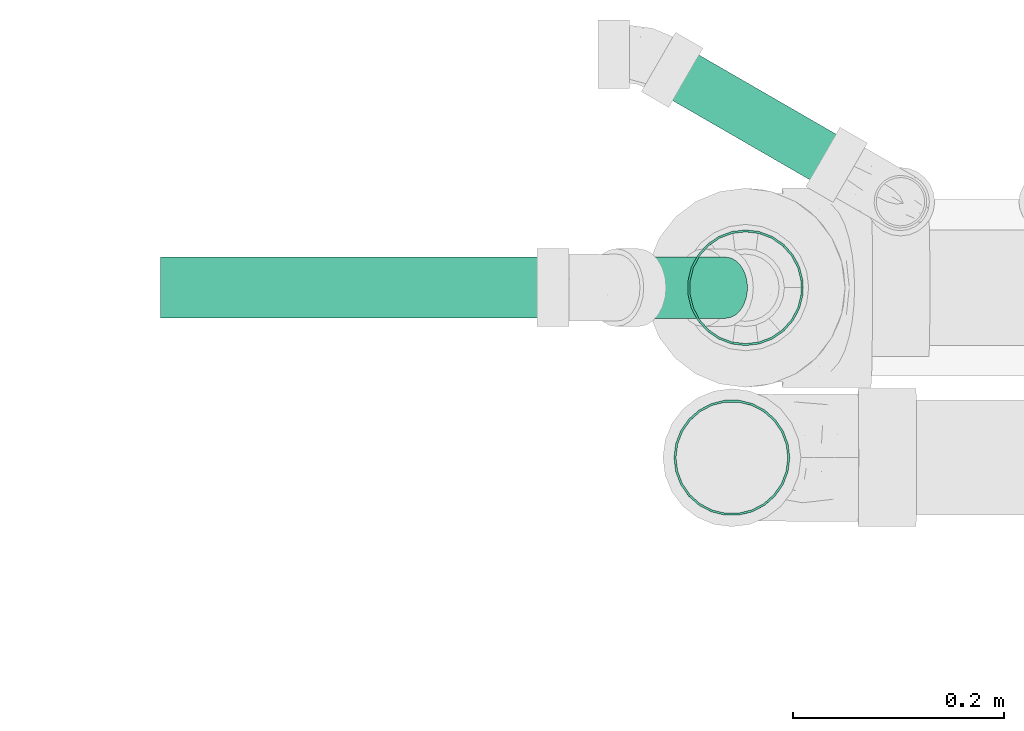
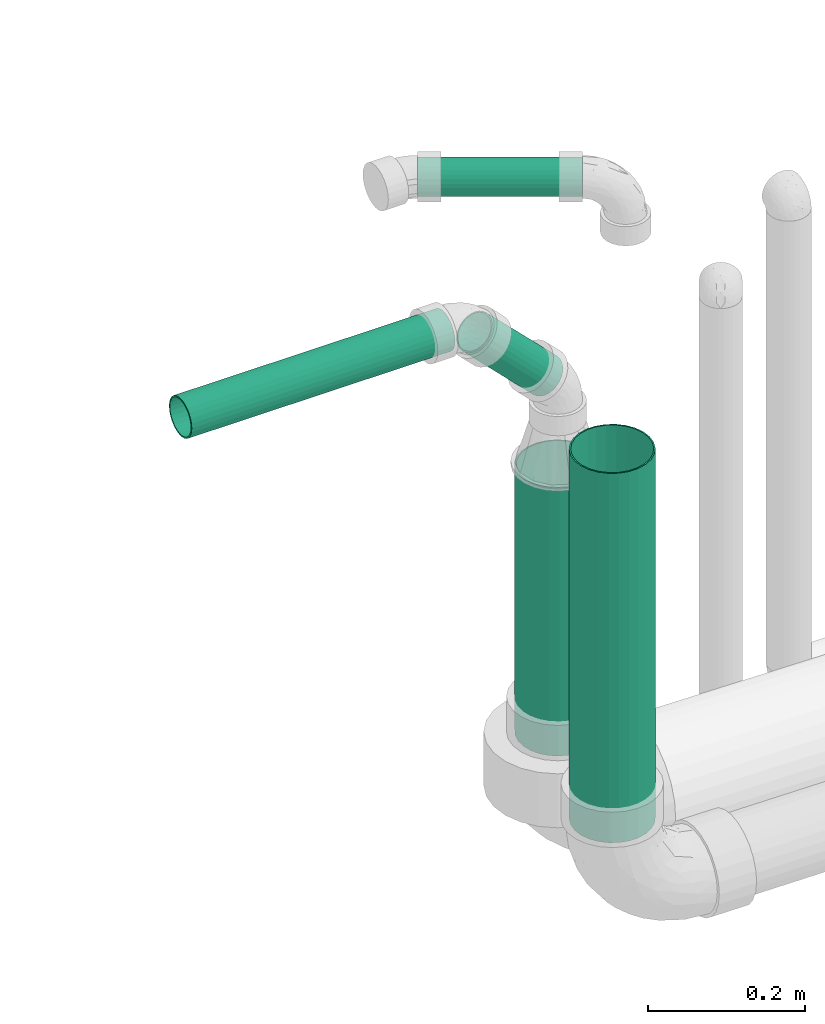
# One storey, part 30 of 78: 5 flow segments.
"""IFC2X3 building model written with IfcOpenShell, lengths in millimetres."""

from ifc_helpers import new_model, entity, si_unit, converted_unit, derived_unit, direction, frame, origin_with_axes, origin_2d_with_axis, place, context, subcontext, project, spatial, hollow_circle, extrude, source, transform, mapped, type_object, element, save


model = new_model("IFC2X3")

# Units and contexts
model_context = context("Model", 3, precision=0.01, world=frame((0.0, 4.29681676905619e-09, 0.0)), true_north=direction((4.01073788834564e-13, 1.0)))
plan_context = context("Plan", 3, precision=0.01, world=frame((0.0, 4.29681676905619e-09, 0.0)), true_north=direction((4.01073788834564e-13, 1.0)))
body_context = subcontext(model_context, "Body", "Model", "MODEL_VIEW")
ifc_project = project(units=[converted_unit("PLANEANGLEUNIT", "DEGREE", entity("IfcPositiveLengthMeasure", 0.0174532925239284), si_unit("PLANEANGLEUNIT", "RADIAN"), dimensions=[0, 0, 0, 0, 0, 0, 0]), si_unit("AREAUNIT", "SQUARE_METRE"), si_unit("LENGTHUNIT", "METRE", prefix="MILLI"), si_unit("MASSUNIT", "GRAM", prefix="KILO"), si_unit("POWERUNIT", "WATT"), si_unit("PRESSUREUNIT", "PASCAL"), si_unit("FORCEUNIT", "NEWTON", prefix="KILO"), si_unit("ELECTRICVOLTAGEUNIT", "VOLT"), si_unit("ELECTRICCURRENTUNIT", "AMPERE"), si_unit("THERMODYNAMICTEMPERATUREUNIT", "DEGREE_CELSIUS"), si_unit("TIMEUNIT", "SECOND"), si_unit("VOLUMEUNIT", "CUBIC_METRE"), derived_unit("LINEARVELOCITYUNIT", [(si_unit("LENGTHUNIT", "METRE"), 1), (si_unit("TIMEUNIT", "SECOND"), -1)]), derived_unit("VOLUMETRICFLOWRATEUNIT", [(si_unit("VOLUMEUNIT", "CUBIC_METRE"), 1), (si_unit("TIMEUNIT", "SECOND"), -1)]), derived_unit("THERMALTRANSMITTANCEUNIT", [(si_unit("POWERUNIT", "WATT"), 1), (si_unit("THERMODYNAMICTEMPERATUREUNIT", "KELVIN"), -1), (si_unit("AREAUNIT", "SQUARE_METRE"), -1)]), derived_unit("SOUNDPRESSUREUNIT", [(si_unit("PRESSUREUNIT", "PASCAL"), 1)])], contexts=[model_context, plan_context])

# Site, building, storey
site_placement = place(None, frame((0.0, -4.29681676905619e-09, 0.0), z_axis=(0.0, 0.0, 1.0), x_axis=(1.0, 0.0, 0.0)))
site = spatial("IfcSite", under=ifc_project, at=site_placement, Name="ENGM", CompositionType="ELEMENT")
building_placement = place(site_placement, frame((0.0, 4.29681676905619e-09, 0.0), z_axis=(0.0, 0.0, 1.0), x_axis=(1.0, 0.0, 0.0)))
building = spatial("IfcBuilding", under=site, at=building_placement, Name="TH", CompositionType="ELEMENT")
storey_placement = place(building_placement, frame((0.0, 0.0, 205200.0), z_axis=(0.0, 0.0, 1.0), x_axis=(1.0, 0.0, 0.0)))
storey = spatial("IfcBuildingStorey", under=building, at=storey_placement, Name="Nivå D + 1,2 m", CompositionType="ELEMENT", Elevation=205200.0)

# Flow segments
pipe_segment_type_1 = type_object("IfcPipeSegmentType", Name="SUPER MA", PredefinedType="RIGIDSEGMENT")
shared_shape_1 = source(origin_with_axes(), body_context, "Body", "SweptSolid", [
    extrude(hollow_circle(Radius=55.0, WallThickness=2.0, at=origin_2d_with_axis()), frame((0.0, 0.0, 0.0), z_axis=(1.0, 0.0, 0.0), x_axis=(0.0, 1.0, 0.0)), (0.0, 0.0, 1.0), 415.7),
])
flow_segment_1_placement = place(storey_placement, frame((899103.43375, 483269.44665, 4554.96878), z_axis=(0.999999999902, -1.03397576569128e-25, -1.3999999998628e-05), x_axis=(1.3999999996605e-05, 1.69999999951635e-05, 0.9999999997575)))
element("IfcFlowSegment", 1, at=flow_segment_1_placement, inside=storey, type_object=pipe_segment_type_1, Name="SUPER MA", context=body_context, shape_type="MappedRepresentation", body=[
    mapped(shared_shape_1, transform((0.0, 0.0, 0.0), scale=1.0)),
])
pipe_segment_type_2 = type_object("IfcPipeSegmentType", Name="MA", PredefinedType="RIGIDSEGMENT")
shared_shape_2 = source(origin_with_axes(), body_context, "Body", "SweptSolid", [
    extrude(hollow_circle(Radius=55.0, WallThickness=2.0, at=origin_2d_with_axis()), frame((0.0, 0.0, 0.0), z_axis=(1.0, 0.0, 0.0), x_axis=(0.0, 1.0, 0.0)), (0.0, 0.0, 1.0), 574.9),
])
flow_segment_2_placement = place(storey_placement, frame((899090.49444, 483108.11831, 4522.20903999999), z_axis=(0.0, 0.9999999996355, -2.69999999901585e-05), x_axis=(0.0, 2.69999999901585e-05, 0.9999999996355)))
element("IfcFlowSegment", 2, at=flow_segment_2_placement, inside=storey, type_object=pipe_segment_type_2, Name="MA", context=body_context, shape_type="MappedRepresentation", body=[
    mapped(shared_shape_2, transform((0.0, 0.0, 0.0), scale=1.0)),
])
shared_shape_3 = source(origin_with_axes(), body_context, "Body", "SweptSolid", [
    extrude(hollow_circle(Radius=29.0, WallThickness=2.0, at=origin_2d_with_axis()), frame((0.0, 0.0, 0.0), z_axis=(1.0, 0.0, 0.0), x_axis=(0.0, 1.0, 0.0)), (0.0, 0.0, 1.0), 147.1),
])
flow_segment_3_placement = place(storey_placement, frame((899084.75814, 483269.48645, 5115.76373000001), z_axis=(0.707106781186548, 0.0, 0.707106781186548), x_axis=(-0.707106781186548, 0.0, 0.707106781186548)))
element("IfcFlowSegment", 3, at=flow_segment_3_placement, inside=storey, type_object=pipe_segment_type_1, Name="SUPER MA", context=body_context, shape_type="MappedRepresentation", body=[
    mapped(shared_shape_3, transform((0.0, 0.0, 0.0), scale=1.0)),
])
shared_shape_4 = source(origin_with_axes(), body_context, "Body", "SweptSolid", [
    extrude(hollow_circle(Radius=29.0, WallThickness=2.0, at=origin_2d_with_axis()), frame((0.0, 0.0, 0.0), z_axis=(1.0, 0.0, 0.0), x_axis=(0.0, 1.0, 0.0)), (0.0, 0.0, 1.0), 387.5),
])
flow_segment_4_placement = place(storey_placement, frame((898935.6279, 483269.58758, 5238.46713999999), z_axis=(0.0, 0.0, 1.0), x_axis=(-1.0, 0.0, 0.0)))
element("IfcFlowSegment", 4, at=flow_segment_4_placement, inside=storey, type_object=pipe_segment_type_1, Name="SUPER MA", context=body_context, shape_type="MappedRepresentation", body=[
    mapped(shared_shape_4, transform((0.0, 0.0, 0.0), scale=1.0)),
])
pipe_segment_type_3 = type_object("IfcPipeSegmentType", Name="PP avløpsrør", PredefinedType="RIGIDSEGMENT")
shared_shape_5 = source(origin_with_axes(), body_context, "Body", "SweptSolid", [
    extrude(hollow_circle(Radius=25.0, WallThickness=2.0, at=origin_2d_with_axis()), frame((0.0, 0.0, 0.0), z_axis=(1.0, 0.0, 0.0), x_axis=(0.0, 1.0, 0.0)), (0.0, 0.0, 1.0), 210.3),
])
flow_segment_5_placement = place(storey_placement, frame((899202.87024, 483378.62945, 5317.07483), z_axis=(0.0, 0.0, 1.0), x_axis=(-0.866025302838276, 0.500000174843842, 0.0)))
element("IfcFlowSegment", 5, at=flow_segment_5_placement, inside=storey, type_object=pipe_segment_type_3, Name="PP avløpsrør", context=body_context, shape_type="MappedRepresentation", body=[
    mapped(shared_shape_5, transform((0.0, 0.0, 0.0), scale=1.0)),
])

save(model, "model.ifc")
